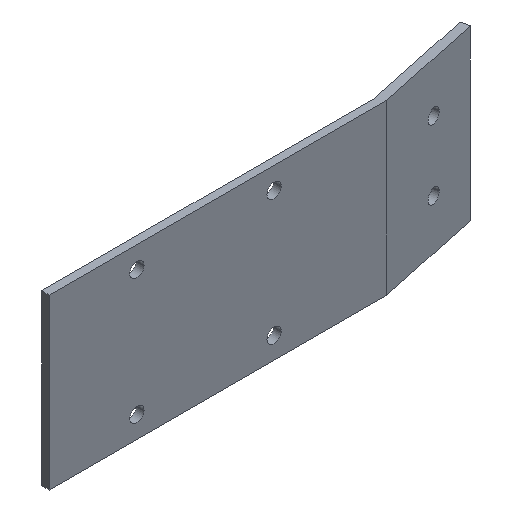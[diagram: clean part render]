
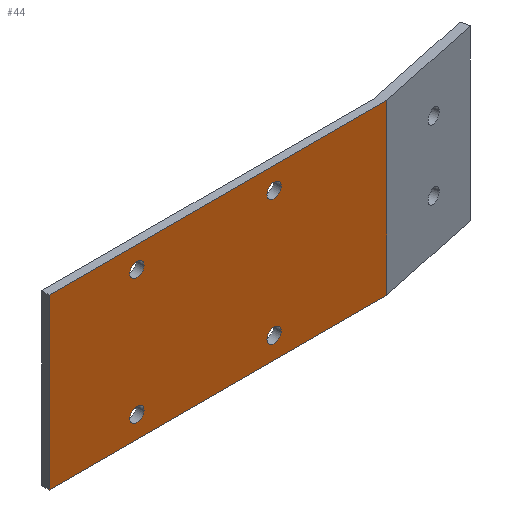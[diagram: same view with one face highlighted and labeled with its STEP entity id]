
A CAD part, isometric view. The second image highlights one B-rep face of the part: STEP entity #44.
In plain terms, the highlighted planar face has unit normal (0, -1, 0).
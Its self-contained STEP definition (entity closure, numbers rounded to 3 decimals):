
#5 = LINE ( 'NONE', #217, #292 ) ;
#6 = EDGE_CURVE ( 'NONE', #529, #129, #350, .T. ) ;
#7 = CARTESIAN_POINT ( 'NONE',  ( 51.95, 0., 34. ) ) ;
#16 = CARTESIAN_POINT ( 'NONE',  ( 0., 0., 39. ) ) ;
#20 = DIRECTION ( 'NONE',  ( 0., 0., -1. ) ) ;
#27 = CARTESIAN_POINT ( 'NONE',  ( 50.3, 0., 34. ) ) ;
#28 = VERTEX_POINT ( 'NONE', #68 ) ;
#36 = VECTOR ( 'NONE', #460, 1000. ) ;
#44 = ADVANCED_FACE ( 'NONE', ( #134, #77, #566, #61, #456 ), #558, .F. ) ;
#50 = VERTEX_POINT ( 'NONE', #672 ) ;
#51 = EDGE_CURVE ( 'NONE', #50, #336, #411, .T. ) ;
#52 = ORIENTED_EDGE ( 'NONE', *, *, #487, .T. ) ;
#61 = FACE_BOUND ( 'NONE', #541, .T. ) ;
#64 = CIRCLE ( 'NONE', #664, 1.65 ) ;
#68 = CARTESIAN_POINT ( 'NONE',  ( 53.6, 0., 34. ) ) ;
#77 = FACE_BOUND ( 'NONE', #632, .T. ) ;
#78 = LINE ( 'NONE', #671, #36 ) ;
#83 = EDGE_CURVE ( 'NONE', #100, #464, #78, .T. ) ;
#84 = CARTESIAN_POINT ( 'NONE',  ( 18.6, 0., 34. ) ) ;
#90 = CARTESIAN_POINT ( 'NONE',  ( 51.95, 0., 5. ) ) ;
#100 = VERTEX_POINT ( 'NONE', #16 ) ;
#103 = VERTEX_POINT ( 'NONE', #27 ) ;
#111 = CARTESIAN_POINT ( 'NONE',  ( 20.25, 0., 34. ) ) ;
#118 = EDGE_CURVE ( 'NONE', #129, #529, #370, .T. ) ;
#128 = DIRECTION ( 'NONE',  ( 0., 1., 0. ) ) ;
#129 = VERTEX_POINT ( 'NONE', #669 ) ;
#131 = CARTESIAN_POINT ( 'NONE',  ( 51.95, 0., 5. ) ) ;
#132 = AXIS2_PLACEMENT_3D ( 'NONE', #538, #432, #374 ) ;
#134 = FACE_BOUND ( 'NONE', #340, .T. ) ;
#137 = EDGE_CURVE ( 'NONE', #603, #683, #64, .T. ) ;
#139 = DIRECTION ( 'NONE',  ( 0., 1., 0. ) ) ;
#140 = VERTEX_POINT ( 'NONE', #615 ) ;
#145 = DIRECTION ( 'NONE',  ( 0., 1., 0. ) ) ;
#149 = EDGE_CURVE ( 'NONE', #100, #50, #621, .T. ) ;
#152 = ORIENTED_EDGE ( 'NONE', *, *, #600, .T. ) ;
#160 = EDGE_CURVE ( 'NONE', #140, #382, #619, .T. ) ;
#161 = EDGE_LOOP ( 'NONE', ( #228, #455, #430, #230 ) ) ;
#163 = DIRECTION ( 'NONE',  ( 0., 1., 0. ) ) ;
#170 = DIRECTION ( 'NONE',  ( 0., 0., 1. ) ) ;
#182 = DIRECTION ( 'NONE',  ( 0., 1., 0. ) ) ;
#217 = CARTESIAN_POINT ( 'NONE',  ( 77.941, 0., 39. ) ) ;
#228 = ORIENTED_EDGE ( 'NONE', *, *, #51, .T. ) ;
#230 = ORIENTED_EDGE ( 'NONE', *, *, #149, .T. ) ;
#238 = DIRECTION ( 'NONE',  ( 0., 0., 1. ) ) ;
#242 = CARTESIAN_POINT ( 'NONE',  ( 0., 0., 0. ) ) ;
#255 = AXIS2_PLACEMENT_3D ( 'NONE', #7, #341, #555 ) ;
#268 = AXIS2_PLACEMENT_3D ( 'NONE', #90, #145, #461 ) ;
#274 = CARTESIAN_POINT ( 'NONE',  ( 20.25, 0., 5. ) ) ;
#275 = DIRECTION ( 'NONE',  ( 0., 0., -1. ) ) ;
#277 = DIRECTION ( 'NONE',  ( 0., 0., 1. ) ) ;
#278 = CARTESIAN_POINT ( 'NONE',  ( 77.941, 0., 0. ) ) ;
#290 = DIRECTION ( 'NONE',  ( 0., 0., 1. ) ) ;
#292 = VECTOR ( 'NONE', #275, 1000. ) ;
#298 = CARTESIAN_POINT ( 'NONE',  ( 18.6, 0., 5. ) ) ;
#314 = AXIS2_PLACEMENT_3D ( 'NONE', #457, #139, #585 ) ;
#336 = VERTEX_POINT ( 'NONE', #278 ) ;
#338 = ORIENTED_EDGE ( 'NONE', *, *, #118, .T. ) ;
#340 = EDGE_LOOP ( 'NONE', ( #708, #338 ) ) ;
#341 = DIRECTION ( 'NONE',  ( 0., 1., 0. ) ) ;
#344 = CARTESIAN_POINT ( 'NONE',  ( 0., 0., 39. ) ) ;
#350 = CIRCLE ( 'NONE', #655, 1.65 ) ;
#351 = EDGE_CURVE ( 'NONE', #464, #336, #5, .T. ) ;
#353 = DIRECTION ( 'NONE',  ( 1., 0., 0. ) ) ;
#370 = CIRCLE ( 'NONE', #507, 1.65 ) ;
#374 = DIRECTION ( 'NONE',  ( 0., 0., 1. ) ) ;
#381 = CARTESIAN_POINT ( 'NONE',  ( 50.3, 0., 5. ) ) ;
#382 = VERTEX_POINT ( 'NONE', #298 ) ;
#396 = CIRCLE ( 'NONE', #268, 1.65 ) ;
#401 = DIRECTION ( 'NONE',  ( 0., 0., 1. ) ) ;
#404 = EDGE_CURVE ( 'NONE', #103, #28, #560, .T. ) ;
#411 = LINE ( 'NONE', #242, #639 ) ;
#430 = ORIENTED_EDGE ( 'NONE', *, *, #83, .F. ) ;
#432 = DIRECTION ( 'NONE',  ( 0., 1., 0. ) ) ;
#442 = CIRCLE ( 'NONE', #132, 1.65 ) ;
#443 = CARTESIAN_POINT ( 'NONE',  ( 53.6, 0., 5. ) ) ;
#454 = CARTESIAN_POINT ( 'NONE',  ( 20.25, 0., 34. ) ) ;
#455 = ORIENTED_EDGE ( 'NONE', *, *, #351, .F. ) ;
#456 = FACE_OUTER_BOUND ( 'NONE', #161, .T. ) ;
#457 = CARTESIAN_POINT ( 'NONE',  ( 20.25, 0., 5. ) ) ;
#459 = AXIS2_PLACEMENT_3D ( 'NONE', #274, #645, #277 ) ;
#460 = DIRECTION ( 'NONE',  ( 1., 0., 0. ) ) ;
#461 = DIRECTION ( 'NONE',  ( 0., 0., 1. ) ) ;
#464 = VERTEX_POINT ( 'NONE', #571 ) ;
#469 = CIRCLE ( 'NONE', #459, 1.65 ) ;
#487 = EDGE_CURVE ( 'NONE', #683, #603, #396, .T. ) ;
#494 = VECTOR ( 'NONE', #20, 1000. ) ;
#507 = AXIS2_PLACEMENT_3D ( 'NONE', #454, #128, #238 ) ;
#511 = CARTESIAN_POINT ( 'NONE',  ( 0., 0., 39. ) ) ;
#529 = VERTEX_POINT ( 'NONE', #84 ) ;
#538 = CARTESIAN_POINT ( 'NONE',  ( 51.95, 0., 34. ) ) ;
#541 = EDGE_LOOP ( 'NONE', ( #152, #710 ) ) ;
#555 = DIRECTION ( 'NONE',  ( 0., 0., 1. ) ) ;
#556 = DIRECTION ( 'NONE',  ( 0., 1., 0. ) ) ;
#558 = PLANE ( 'NONE',  #568 ) ;
#560 = CIRCLE ( 'NONE', #255, 1.65 ) ;
#566 = FACE_BOUND ( 'NONE', #643, .T. ) ;
#568 = AXIS2_PLACEMENT_3D ( 'NONE', #344, #556, #290 ) ;
#571 = CARTESIAN_POINT ( 'NONE',  ( 77.941, 0., 39. ) ) ;
#585 = DIRECTION ( 'NONE',  ( 0., 0., 1. ) ) ;
#600 = EDGE_CURVE ( 'NONE', #382, #140, #469, .T. ) ;
#603 = VERTEX_POINT ( 'NONE', #443 ) ;
#604 = ORIENTED_EDGE ( 'NONE', *, *, #642, .T. ) ;
#615 = CARTESIAN_POINT ( 'NONE',  ( 21.9, 0., 5. ) ) ;
#619 = CIRCLE ( 'NONE', #314, 1.65 ) ;
#621 = LINE ( 'NONE', #511, #494 ) ;
#632 = EDGE_LOOP ( 'NONE', ( #702, #604 ) ) ;
#639 = VECTOR ( 'NONE', #353, 1000. ) ;
#642 = EDGE_CURVE ( 'NONE', #28, #103, #442, .T. ) ;
#643 = EDGE_LOOP ( 'NONE', ( #52, #663 ) ) ;
#645 = DIRECTION ( 'NONE',  ( 0., 1., 0. ) ) ;
#655 = AXIS2_PLACEMENT_3D ( 'NONE', #111, #163, #170 ) ;
#663 = ORIENTED_EDGE ( 'NONE', *, *, #137, .T. ) ;
#664 = AXIS2_PLACEMENT_3D ( 'NONE', #131, #182, #401 ) ;
#669 = CARTESIAN_POINT ( 'NONE',  ( 21.9, 0., 34. ) ) ;
#671 = CARTESIAN_POINT ( 'NONE',  ( 0., 0., 39. ) ) ;
#672 = CARTESIAN_POINT ( 'NONE',  ( 0., 0., 0. ) ) ;
#683 = VERTEX_POINT ( 'NONE', #381 ) ;
#702 = ORIENTED_EDGE ( 'NONE', *, *, #404, .T. ) ;
#708 = ORIENTED_EDGE ( 'NONE', *, *, #6, .T. ) ;
#710 = ORIENTED_EDGE ( 'NONE', *, *, #160, .T. ) ;
